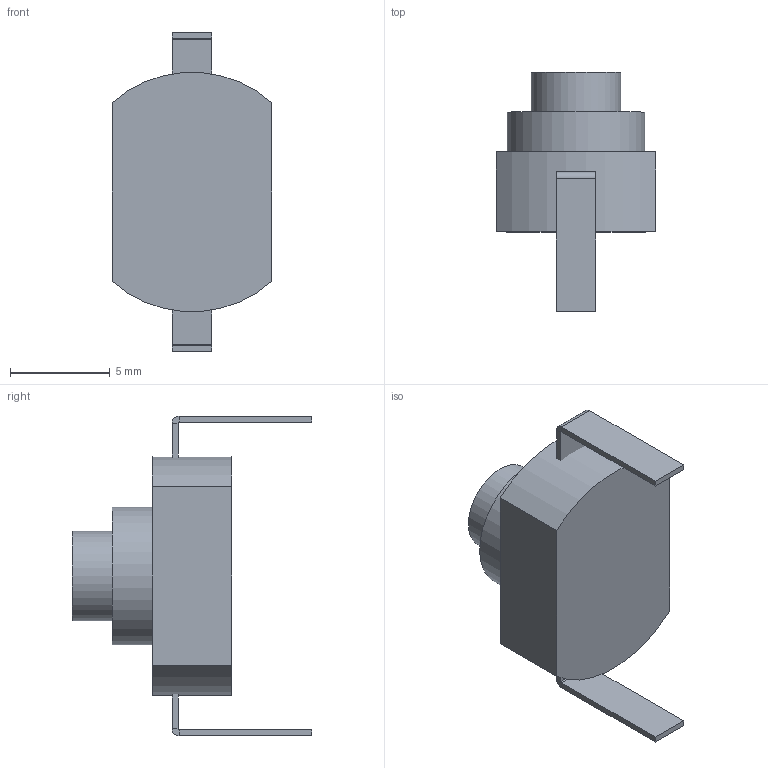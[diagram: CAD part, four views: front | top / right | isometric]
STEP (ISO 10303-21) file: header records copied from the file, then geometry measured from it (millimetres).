
FILE_DESCRIPTION(('FreeCAD Model'),'2;1');
FILE_NAME('Open CASCADE Shape Model','2023-05-06T18:44:57',('Author'),( ''),'Open CASCADE STEP processor 7.5','FreeCAD','Unknown');
FILE_SCHEMA(('AUTOMOTIVE_DESIGN { 1 0 10303 214 1 1 1 1 }'));
Length unit declared in the file: millimetre
Products named in the file (1): button switch_1208
Bounding box: 8 x 12 x 16 mm (x, y, z)
Volume: 470.6 mm3; surface area: 474.7 mm2
Topology: 3 solids, 3 shells, 38 faces, 74 edges, 44 vertices
Faces by surface type: plane 30, cylinder 8
Full cylindrical faces by diameter (mm): 4.5 x1, 6.9 x1
Entity records: 1395 total; most frequent: DIRECTION 166, CARTESIAN_POINT 155, ORIENTED_EDGE 144, EDGE_CURVE 72, LINE 56, VECTOR 56, AXIS2_PLACEMENT_3D 55, VERTEX_POINT 44
